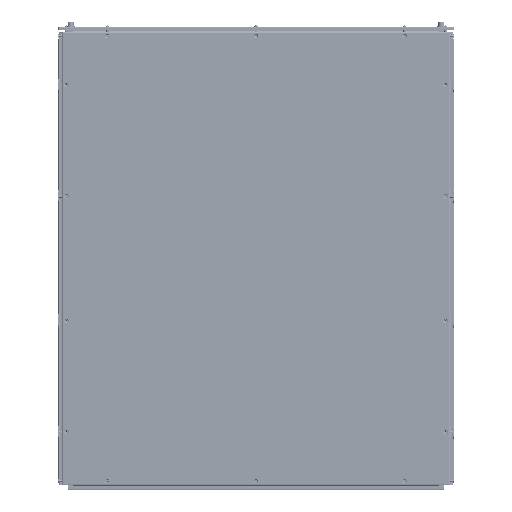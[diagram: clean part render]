
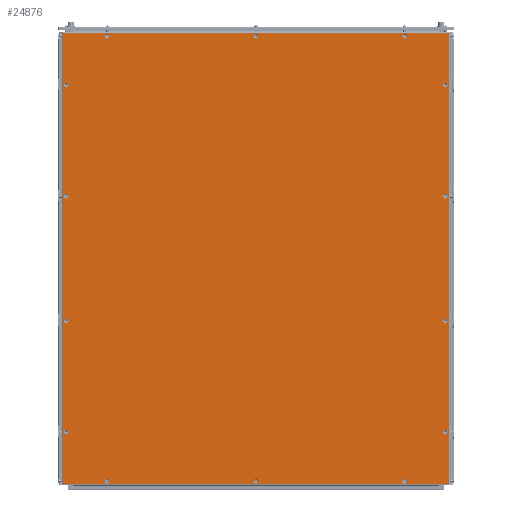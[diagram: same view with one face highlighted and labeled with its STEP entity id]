
A CAD part, left-side view. The second image highlights one B-rep face of the part: STEP entity #24876.
In plain terms, the highlighted planar face has unit normal (-1, 0, 0) as drawn and (1, 0, 0) by its records, which use the part's own axes.
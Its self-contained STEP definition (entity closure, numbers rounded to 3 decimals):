
#24876=ADVANCED_FACE('',(#144642,#144644,#144646,#144648,#144650,#144652,#144654,
#144656,#144658,#144660,#144662,#144664,#144666,#144668,#144670),#144672,.T.);
#144642=FACE_BOUND('',#144643,.T.);
#144643=EDGE_LOOP('',(#358165,#358166,#358167,#358168));
#144644=FACE_BOUND('',#144645,.T.);
#144645=EDGE_LOOP('',(#358169));
#144646=FACE_BOUND('',#144647,.T.);
#144647=EDGE_LOOP('',(#358170));
#144648=FACE_BOUND('',#144649,.T.);
#144649=EDGE_LOOP('',(#358171));
#144650=FACE_BOUND('',#144651,.T.);
#144651=EDGE_LOOP('',(#358172));
#144652=FACE_BOUND('',#144653,.T.);
#144653=EDGE_LOOP('',(#358173));
#144654=FACE_BOUND('',#144655,.T.);
#144655=EDGE_LOOP('',(#358174));
#144656=FACE_BOUND('',#144657,.T.);
#144657=EDGE_LOOP('',(#358175));
#144658=FACE_BOUND('',#144659,.T.);
#144659=EDGE_LOOP('',(#358176));
#144660=FACE_BOUND('',#144661,.T.);
#144661=EDGE_LOOP('',(#358177));
#144662=FACE_BOUND('',#144663,.T.);
#144663=EDGE_LOOP('',(#358178));
#144664=FACE_BOUND('',#144665,.T.);
#144665=EDGE_LOOP('',(#358179));
#144666=FACE_BOUND('',#144667,.T.);
#144667=EDGE_LOOP('',(#358180));
#144668=FACE_BOUND('',#144669,.T.);
#144669=EDGE_LOOP('',(#358181));
#144670=FACE_BOUND('',#144671,.T.);
#144671=EDGE_LOOP('',(#358182));
#144672=PLANE('',#144673);
#144673=AXIS2_PLACEMENT_3D('',#144674,#144675,#144676);
#144674=CARTESIAN_POINT('',(1.5,0.,0.));
#144675=DIRECTION('',(1.,0.,0.));
#144676=DIRECTION('',(0.,1.,0.));
#358165=ORIENTED_EDGE('',*,*,#402006,.T.);
#358166=ORIENTED_EDGE('',*,*,#402012,.T.);
#358167=ORIENTED_EDGE('',*,*,#402010,.T.);
#358168=ORIENTED_EDGE('',*,*,#402008,.T.);
#358169=ORIENTED_EDGE('',*,*,#402027,.T.);
#358170=ORIENTED_EDGE('',*,*,#402028,.T.);
#358171=ORIENTED_EDGE('',*,*,#402029,.T.);
#358172=ORIENTED_EDGE('',*,*,#402030,.T.);
#358173=ORIENTED_EDGE('',*,*,#402031,.T.);
#358174=ORIENTED_EDGE('',*,*,#402032,.T.);
#358175=ORIENTED_EDGE('',*,*,#402033,.T.);
#358176=ORIENTED_EDGE('',*,*,#402034,.T.);
#358177=ORIENTED_EDGE('',*,*,#402035,.T.);
#358178=ORIENTED_EDGE('',*,*,#402036,.T.);
#358179=ORIENTED_EDGE('',*,*,#402037,.T.);
#358180=ORIENTED_EDGE('',*,*,#402038,.T.);
#358181=ORIENTED_EDGE('',*,*,#402039,.T.);
#358182=ORIENTED_EDGE('',*,*,#402040,.T.);
#402006=EDGE_CURVE('',#461072,#461070,#461073,.T.);
#402008=EDGE_CURVE('',#461075,#461072,#461076,.T.);
#402010=EDGE_CURVE('',#461078,#461075,#461079,.T.);
#402012=EDGE_CURVE('',#461070,#461078,#461081,.T.);
#402027=EDGE_CURVE('',#461110,#461110,#461111,.F.);
#402028=EDGE_CURVE('',#461112,#461112,#461113,.F.);
#402029=EDGE_CURVE('',#461114,#461114,#461115,.F.);
#402030=EDGE_CURVE('',#461116,#461116,#461117,.F.);
#402031=EDGE_CURVE('',#461118,#461118,#461119,.F.);
#402032=EDGE_CURVE('',#461120,#461120,#461121,.F.);
#402033=EDGE_CURVE('',#461122,#461122,#461123,.F.);
#402034=EDGE_CURVE('',#461124,#461124,#461125,.F.);
#402035=EDGE_CURVE('',#461126,#461126,#461127,.F.);
#402036=EDGE_CURVE('',#461128,#461128,#461129,.F.);
#402037=EDGE_CURVE('',#461130,#461130,#461131,.F.);
#402038=EDGE_CURVE('',#461132,#461132,#461133,.F.);
#402039=EDGE_CURVE('',#461134,#461134,#461135,.F.);
#402040=EDGE_CURVE('',#461136,#461136,#461137,.T.);
#461070=VERTEX_POINT('',#595209);
#461072=VERTEX_POINT('',#595214);
#461073=LINE('',#595215,#595216);
#461075=VERTEX_POINT('',#595222);
#461076=LINE('',#595223,#595224);
#461078=VERTEX_POINT('',#595230);
#461079=LINE('',#595231,#595232);
#461081=LINE('',#595238,#595239);
#461110=VERTEX_POINT('',#595311);
#461111=CIRCLE('',#595312,6.954);
#461112=VERTEX_POINT('',#595316);
#461113=CIRCLE('',#595317,6.954);
#461114=VERTEX_POINT('',#595321);
#461115=CIRCLE('',#595322,6.954);
#461116=VERTEX_POINT('',#595326);
#461117=CIRCLE('',#595327,6.954);
#461118=VERTEX_POINT('',#595331);
#461119=CIRCLE('',#595332,6.954);
#461120=VERTEX_POINT('',#595336);
#461121=CIRCLE('',#595337,6.954);
#461122=VERTEX_POINT('',#595341);
#461123=CIRCLE('',#595342,6.954);
#461124=VERTEX_POINT('',#595346);
#461125=CIRCLE('',#595347,6.954);
#461126=VERTEX_POINT('',#595351);
#461127=CIRCLE('',#595352,6.954);
#461128=VERTEX_POINT('',#595356);
#461129=CIRCLE('',#595357,6.954);
#461130=VERTEX_POINT('',#595361);
#461131=CIRCLE('',#595362,6.954);
#461132=VERTEX_POINT('',#595366);
#461133=CIRCLE('',#595367,6.954);
#461134=VERTEX_POINT('',#595371);
#461135=CIRCLE('',#595372,6.954);
#461136=VERTEX_POINT('',#595376);
#461137=CIRCLE('',#595377,6.954);
#595209=CARTESIAN_POINT('',(1.5,-583.7,-682.7));
#595214=CARTESIAN_POINT('',(1.5,-583.7,682.7));
#595215=CARTESIAN_POINT('',(1.5,-583.7,682.7));
#595216=VECTOR('',#595217,1.);
#595217=DIRECTION('',(0.,0.,-1.));
#595222=CARTESIAN_POINT('',(1.5,583.7,682.7));
#595223=CARTESIAN_POINT('',(1.5,583.7,682.7));
#595224=VECTOR('',#595225,1.);
#595225=DIRECTION('',(0.,-1.,0.));
#595230=CARTESIAN_POINT('',(1.5,583.7,-682.7));
#595231=CARTESIAN_POINT('',(1.5,583.7,-682.7));
#595232=VECTOR('',#595233,1.);
#595233=DIRECTION('',(0.,0.,1.));
#595238=CARTESIAN_POINT('',(1.5,-583.7,-682.7));
#595239=VECTOR('',#595240,1.);
#595240=DIRECTION('',(0.,1.,0.));
#595311=CARTESIAN_POINT('',(1.5,6.954,-673.5));
#595312=AXIS2_PLACEMENT_3D('',#595313,#595314,#595315);
#595313=CARTESIAN_POINT('',(1.5,0.,-673.5));
#595314=DIRECTION('',(1.,0.,0.));
#595315=DIRECTION('',(0.,1.,0.));
#595316=CARTESIAN_POINT('',(1.5,6.954,673.5));
#595317=AXIS2_PLACEMENT_3D('',#595318,#595319,#595320);
#595318=CARTESIAN_POINT('',(1.5,0.,673.5));
#595319=DIRECTION('',(1.,0.,0.));
#595320=DIRECTION('',(0.,1.,0.));
#595321=CARTESIAN_POINT('',(1.5,456.954,673.5));
#595322=AXIS2_PLACEMENT_3D('',#595323,#595324,#595325);
#595323=CARTESIAN_POINT('',(1.5,450.,673.5));
#595324=DIRECTION('',(1.,0.,0.));
#595325=DIRECTION('',(0.,1.,0.));
#595326=CARTESIAN_POINT('',(1.5,456.954,-673.5));
#595327=AXIS2_PLACEMENT_3D('',#595328,#595329,#595330);
#595328=CARTESIAN_POINT('',(1.5,450.,-673.5));
#595329=DIRECTION('',(1.,0.,0.));
#595330=DIRECTION('',(0.,1.,0.));
#595331=CARTESIAN_POINT('',(1.5,-443.046,673.5));
#595332=AXIS2_PLACEMENT_3D('',#595333,#595334,#595335);
#595333=CARTESIAN_POINT('',(1.5,-450.,673.5));
#595334=DIRECTION('',(1.,0.,0.));
#595335=DIRECTION('',(0.,1.,0.));
#595336=CARTESIAN_POINT('',(1.5,-443.046,-673.5));
#595337=AXIS2_PLACEMENT_3D('',#595338,#595339,#595340);
#595338=CARTESIAN_POINT('',(1.5,-450.,-673.5));
#595339=DIRECTION('',(1.,0.,0.));
#595340=DIRECTION('',(0.,1.,0.));
#595341=CARTESIAN_POINT('',(1.5,580.454,-188.5));
#595342=AXIS2_PLACEMENT_3D('',#595343,#595344,#595345);
#595343=CARTESIAN_POINT('',(1.5,573.5,-188.5));
#595344=DIRECTION('',(1.,0.,0.));
#595345=DIRECTION('',(0.,1.,0.));
#595346=CARTESIAN_POINT('',(1.5,580.454,188.5));
#595347=AXIS2_PLACEMENT_3D('',#595348,#595349,#595350);
#595348=CARTESIAN_POINT('',(1.5,573.5,188.5));
#595349=DIRECTION('',(1.,0.,0.));
#595350=DIRECTION('',(0.,1.,0.));
#595351=CARTESIAN_POINT('',(1.5,-566.546,-188.5));
#595352=AXIS2_PLACEMENT_3D('',#595353,#595354,#595355);
#595353=CARTESIAN_POINT('',(1.5,-573.5,-188.5));
#595354=DIRECTION('',(1.,0.,0.));
#595355=DIRECTION('',(0.,1.,0.));
#595356=CARTESIAN_POINT('',(1.5,-566.546,188.5));
#595357=AXIS2_PLACEMENT_3D('',#595358,#595359,#595360);
#595358=CARTESIAN_POINT('',(1.5,-573.5,188.5));
#595359=DIRECTION('',(1.,0.,0.));
#595360=DIRECTION('',(0.,1.,0.));
#595361=CARTESIAN_POINT('',(1.5,580.454,525.));
#595362=AXIS2_PLACEMENT_3D('',#595363,#595364,#595365);
#595363=CARTESIAN_POINT('',(1.5,573.5,525.));
#595364=DIRECTION('',(1.,0.,0.));
#595365=DIRECTION('',(0.,1.,0.));
#595366=CARTESIAN_POINT('',(1.5,580.454,-525.));
#595367=AXIS2_PLACEMENT_3D('',#595368,#595369,#595370);
#595368=CARTESIAN_POINT('',(1.5,573.5,-525.));
#595369=DIRECTION('',(1.,0.,0.));
#595370=DIRECTION('',(0.,1.,0.));
#595371=CARTESIAN_POINT('',(1.5,-566.546,-525.));
#595372=AXIS2_PLACEMENT_3D('',#595373,#595374,#595375);
#595373=CARTESIAN_POINT('',(1.5,-573.5,-525.));
#595374=DIRECTION('',(1.,0.,0.));
#595375=DIRECTION('',(0.,1.,0.));
#595376=CARTESIAN_POINT('',(1.5,-566.546,525.));
#595377=AXIS2_PLACEMENT_3D('',#595378,#595379,#595380);
#595378=CARTESIAN_POINT('',(1.5,-573.5,525.));
#595379=DIRECTION('',(-1.,0.,0.));
#595380=DIRECTION('',(0.,1.,0.));
